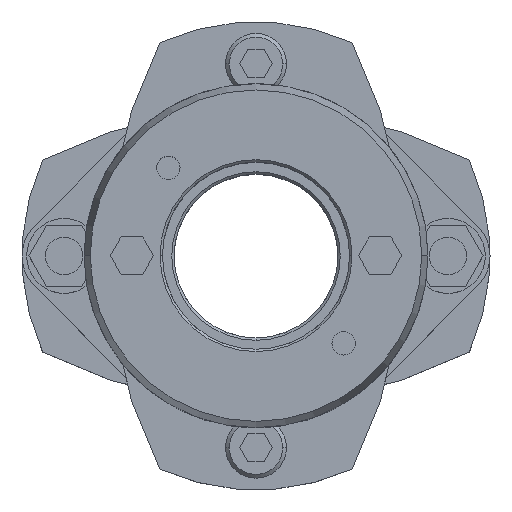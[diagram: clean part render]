
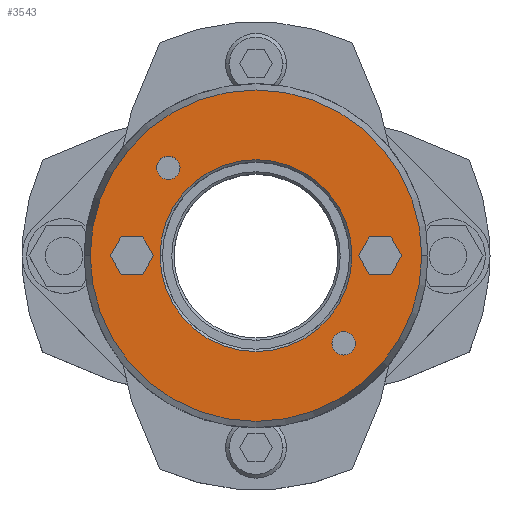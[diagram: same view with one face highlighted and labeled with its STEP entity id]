
A CAD part, top view. The second image highlights one B-rep face of the part: STEP entity #3543.
In plain terms, the highlighted planar face has unit normal (0, 0, 1).
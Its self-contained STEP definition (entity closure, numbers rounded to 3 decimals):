
#1505=CARTESIAN_POINT('',(-20.5,0.,42.0));
#1506=VERTEX_POINT('',#1505);
#1522=CARTESIAN_POINT('',(20.5,0.,42.0));
#1523=VERTEX_POINT('',#1522);
#1530=CARTESIAN_POINT('',(0.,0.,42.0));
#1531=DIRECTION('',(0.0,0.0,1.0));
#1532=DIRECTION('',(-1.0,0.0,0.0));
#1533=AXIS2_PLACEMENT_3D('',#1530,#1531,#1532);
#1534=CIRCLE('',#1533,20.5);
#1535=EDGE_CURVE('',#1523,#1506,#1534,.T.);
#1651=CARTESIAN_POINT('',(35.41,0.,42.0));
#1652=VERTEX_POINT('',#1651);
#1661=CARTESIAN_POINT('',(-35.41,0.,42.0));
#1662=VERTEX_POINT('',#1661);
#1663=CARTESIAN_POINT('',(0.,0.,42.0));
#1664=DIRECTION('',(0.0,0.0,-1.0));
#1665=DIRECTION('',(1.0,0.0,0.0));
#1666=AXIS2_PLACEMENT_3D('',#1663,#1664,#1665);
#1667=CIRCLE('',#1666,35.41);
#1668=EDGE_CURVE('',#1652,#1662,#1667,.T.);
#1837=CARTESIAN_POINT('',(-21.238,18.738,42.0));
#1838=VERTEX_POINT('',#1837);
#1854=CARTESIAN_POINT('',(-16.238,18.738,42.0));
#1855=VERTEX_POINT('',#1854);
#1862=CARTESIAN_POINT('',(-18.738,18.738,42.0));
#1863=DIRECTION('',(0.0,0.0,-1.0));
#1864=DIRECTION('',(-1.0,0.0,0.0));
#1865=AXIS2_PLACEMENT_3D('',#1862,#1863,#1864);
#1866=CIRCLE('',#1865,2.5);
#1867=EDGE_CURVE('',#1838,#1855,#1866,.T.);
#1879=CARTESIAN_POINT('',(16.238,-18.738,42.0));
#1880=VERTEX_POINT('',#1879);
#1896=CARTESIAN_POINT('',(21.238,-18.738,42.0));
#1897=VERTEX_POINT('',#1896);
#1904=CARTESIAN_POINT('',(18.738,-18.738,42.0));
#1905=DIRECTION('',(0.0,0.0,-1.0));
#1906=DIRECTION('',(-1.0,0.0,0.0));
#1907=AXIS2_PLACEMENT_3D('',#1904,#1905,#1906);
#1908=CIRCLE('',#1907,2.5);
#1909=EDGE_CURVE('',#1880,#1897,#1908,.T.);
#2669=CARTESIAN_POINT('',(21.881,0.,42.0));
#2670=VERTEX_POINT('',#2669);
#2677=CARTESIAN_POINT('',(24.191,-4.,42.0));
#2678=VERTEX_POINT('',#2677);
#2679=CARTESIAN_POINT('',(24.191,-4.,42.0));
#2680=DIRECTION('',(-0.5,0.866,0.0));
#2681=VECTOR('',#2680,4.619);
#2682=LINE('',#2679,#2681);
#2683=EDGE_CURVE('',#2678,#2670,#2682,.T.);
#2707=CARTESIAN_POINT('',(24.191,4.,42.0));
#2708=VERTEX_POINT('',#2707);
#2715=CARTESIAN_POINT('',(21.881,0.,42.0));
#2716=DIRECTION('',(0.5,0.866,0.0));
#2717=VECTOR('',#2716,4.619);
#2718=LINE('',#2715,#2717);
#2719=EDGE_CURVE('',#2670,#2708,#2718,.T.);
#2738=CARTESIAN_POINT('',(28.809,4.,42.0));
#2739=VERTEX_POINT('',#2738);
#2746=CARTESIAN_POINT('',(24.191,4.,42.0));
#2747=DIRECTION('',(1.0,0.0,0.0));
#2748=VECTOR('',#2747,4.619);
#2749=LINE('',#2746,#2748);
#2750=EDGE_CURVE('',#2708,#2739,#2749,.T.);
#2769=CARTESIAN_POINT('',(31.119,0.,42.0));
#2770=VERTEX_POINT('',#2769);
#2777=CARTESIAN_POINT('',(28.809,4.,42.0));
#2778=DIRECTION('',(0.5,-0.866,0.0));
#2779=VECTOR('',#2778,4.619);
#2780=LINE('',#2777,#2779);
#2781=EDGE_CURVE('',#2739,#2770,#2780,.T.);
#2800=CARTESIAN_POINT('',(28.809,-4.,42.0));
#2801=VERTEX_POINT('',#2800);
#2808=CARTESIAN_POINT('',(31.119,0.,42.0));
#2809=DIRECTION('',(-0.5,-0.866,0.0));
#2810=VECTOR('',#2809,4.619);
#2811=LINE('',#2808,#2810);
#2812=EDGE_CURVE('',#2770,#2801,#2811,.T.);
#2830=CARTESIAN_POINT('',(28.809,-4.,42.0));
#2831=DIRECTION('',(-1.0,0.0,0.0));
#2832=VECTOR('',#2831,4.619);
#2833=LINE('',#2830,#2832);
#2834=EDGE_CURVE('',#2801,#2678,#2833,.T.);
#2869=CARTESIAN_POINT('',(-31.119,0.,42.0));
#2870=VERTEX_POINT('',#2869);
#2877=CARTESIAN_POINT('',(-28.809,-4.,42.0));
#2878=VERTEX_POINT('',#2877);
#2879=CARTESIAN_POINT('',(-28.809,-4.,42.0));
#2880=DIRECTION('',(-0.5,0.866,0.0));
#2881=VECTOR('',#2880,4.619);
#2882=LINE('',#2879,#2881);
#2883=EDGE_CURVE('',#2878,#2870,#2882,.T.);
#2907=CARTESIAN_POINT('',(-28.809,4.,42.0));
#2908=VERTEX_POINT('',#2907);
#2915=CARTESIAN_POINT('',(-31.119,0.,42.0));
#2916=DIRECTION('',(0.5,0.866,0.0));
#2917=VECTOR('',#2916,4.619);
#2918=LINE('',#2915,#2917);
#2919=EDGE_CURVE('',#2870,#2908,#2918,.T.);
#2938=CARTESIAN_POINT('',(-24.191,4.,42.0));
#2939=VERTEX_POINT('',#2938);
#2946=CARTESIAN_POINT('',(-28.809,4.,42.0));
#2947=DIRECTION('',(1.0,0.0,0.0));
#2948=VECTOR('',#2947,4.619);
#2949=LINE('',#2946,#2948);
#2950=EDGE_CURVE('',#2908,#2939,#2949,.T.);
#2969=CARTESIAN_POINT('',(-21.881,0.,42.0));
#2970=VERTEX_POINT('',#2969);
#2977=CARTESIAN_POINT('',(-24.191,4.,42.0));
#2978=DIRECTION('',(0.5,-0.866,0.0));
#2979=VECTOR('',#2978,4.619);
#2980=LINE('',#2977,#2979);
#2981=EDGE_CURVE('',#2939,#2970,#2980,.T.);
#3000=CARTESIAN_POINT('',(-24.191,-4.,42.0));
#3001=VERTEX_POINT('',#3000);
#3008=CARTESIAN_POINT('',(-21.881,0.,42.0));
#3009=DIRECTION('',(-0.5,-0.866,0.0));
#3010=VECTOR('',#3009,4.619);
#3011=LINE('',#3008,#3010);
#3012=EDGE_CURVE('',#2970,#3001,#3011,.T.);
#3030=CARTESIAN_POINT('',(-24.191,-4.,42.0));
#3031=DIRECTION('',(-1.0,0.0,0.0));
#3032=VECTOR('',#3031,4.619);
#3033=LINE('',#3030,#3032);
#3034=EDGE_CURVE('',#3001,#2878,#3033,.T.);
#3060=CARTESIAN_POINT('',(18.738,-18.738,42.0));
#3061=DIRECTION('',(0.0,0.0,-1.0));
#3062=DIRECTION('',(-1.0,0.0,0.0));
#3063=AXIS2_PLACEMENT_3D('',#3060,#3061,#3062);
#3064=CIRCLE('',#3063,2.5);
#3065=EDGE_CURVE('',#1897,#1880,#3064,.T.);
#3094=CARTESIAN_POINT('',(-18.738,18.738,42.0));
#3095=DIRECTION('',(0.0,0.0,-1.0));
#3096=DIRECTION('',(-1.0,0.0,0.0));
#3097=AXIS2_PLACEMENT_3D('',#3094,#3095,#3096);
#3098=CIRCLE('',#3097,2.5);
#3099=EDGE_CURVE('',#1855,#1838,#3098,.T.);
#3490=CARTESIAN_POINT('',(0.,0.,42.0));
#3491=DIRECTION('',(0.0,0.0,-1.0));
#3492=DIRECTION('',(1.0,0.0,0.0));
#3493=AXIS2_PLACEMENT_3D('',#3490,#3491,#3492);
#3494=CIRCLE('',#3493,35.41);
#3495=EDGE_CURVE('',#1662,#1652,#3494,.T.);
#3500=CARTESIAN_POINT('',(-3.341,0.,42.0));
#3501=DIRECTION('',(0.0,0.0,1.0));
#3502=DIRECTION('',(-1.0,0.0,0.0));
#3503=AXIS2_PLACEMENT_3D('',#3500,#3501,#3502);
#3504=PLANE('',#3503);
#3505=ORIENTED_EDGE('',*,*,#3495,.F.);
#3506=ORIENTED_EDGE('',*,*,#1668,.F.);
#3507=EDGE_LOOP('',(#3505,#3506));
#3508=FACE_OUTER_BOUND('',#3507,.T.);
#3509=ORIENTED_EDGE('',*,*,#2683,.T.);
#3510=ORIENTED_EDGE('',*,*,#2719,.T.);
#3511=ORIENTED_EDGE('',*,*,#2750,.T.);
#3512=ORIENTED_EDGE('',*,*,#2781,.T.);
#3513=ORIENTED_EDGE('',*,*,#2812,.T.);
#3514=ORIENTED_EDGE('',*,*,#2834,.T.);
#3515=EDGE_LOOP('',(#3509,#3510,#3511,#3512,#3513,#3514));
#3516=FACE_BOUND('',#3515,.T.);
#3517=ORIENTED_EDGE('',*,*,#2883,.T.);
#3518=ORIENTED_EDGE('',*,*,#2919,.T.);
#3519=ORIENTED_EDGE('',*,*,#2950,.T.);
#3520=ORIENTED_EDGE('',*,*,#2981,.T.);
#3521=ORIENTED_EDGE('',*,*,#3012,.T.);
#3522=ORIENTED_EDGE('',*,*,#3034,.T.);
#3523=EDGE_LOOP('',(#3517,#3518,#3519,#3520,#3521,#3522));
#3524=FACE_BOUND('',#3523,.T.);
#3525=ORIENTED_EDGE('',*,*,#1909,.T.);
#3526=ORIENTED_EDGE('',*,*,#3065,.T.);
#3527=EDGE_LOOP('',(#3525,#3526));
#3528=FACE_BOUND('',#3527,.T.);
#3529=ORIENTED_EDGE('',*,*,#1867,.T.);
#3530=ORIENTED_EDGE('',*,*,#3099,.T.);
#3531=EDGE_LOOP('',(#3529,#3530));
#3532=FACE_BOUND('',#3531,.T.);
#3533=ORIENTED_EDGE('',*,*,#1535,.F.);
#3534=CARTESIAN_POINT('',(0.,0.,42.0));
#3535=DIRECTION('',(0.0,0.0,1.0));
#3536=DIRECTION('',(-1.0,0.0,0.0));
#3537=AXIS2_PLACEMENT_3D('',#3534,#3535,#3536);
#3538=CIRCLE('',#3537,20.5);
#3539=EDGE_CURVE('',#1506,#1523,#3538,.T.);
#3540=ORIENTED_EDGE('',*,*,#3539,.F.);
#3541=EDGE_LOOP('',(#3533,#3540));
#3542=FACE_BOUND('',#3541,.T.);
#3543=ADVANCED_FACE('',(#3508,#3516,#3524,#3528,#3532,#3542),#3504,.T.);
